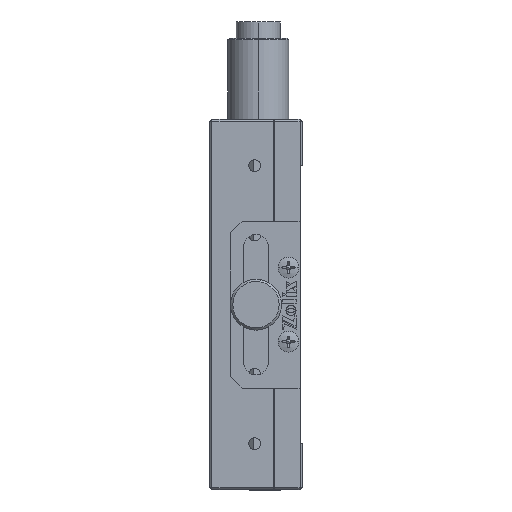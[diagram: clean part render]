
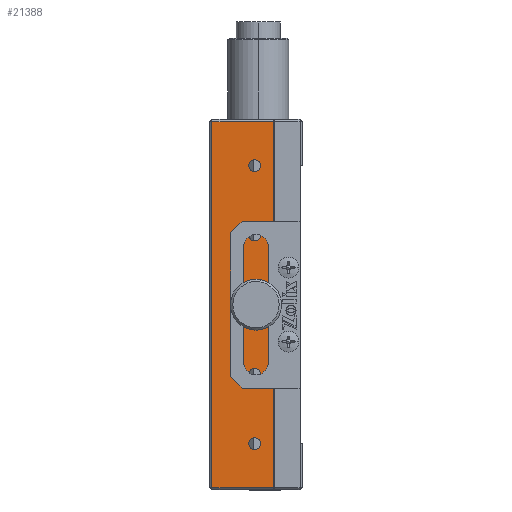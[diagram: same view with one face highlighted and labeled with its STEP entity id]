
A CAD part, left-side view. The second image highlights one B-rep face of the part: STEP entity #21388.
In plain terms, the highlighted planar face has unit normal (-1, 0, 0).
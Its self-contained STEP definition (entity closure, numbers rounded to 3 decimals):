
#180 = AXIS2_PLACEMENT_3D ( 'NONE', #11347, #17938, #22112 ) ;
#286 = VERTEX_POINT ( 'NONE', #22241 ) ;
#294 = DIRECTION ( 'NONE',  ( -1., 0., 0. ) ) ;
#689 = VERTEX_POINT ( 'NONE', #10842 ) ;
#996 = EDGE_LOOP ( 'NONE', ( #18787, #26499 ) ) ;
#1949 = CARTESIAN_POINT ( 'NONE',  ( -39.851, -3.935, 121.25 ) ) ;
#2378 = CARTESIAN_POINT ( 'NONE',  ( -39.851, -3.935, 122.5 ) ) ;
#2574 = ORIENTED_EDGE ( 'NONE', *, *, #9299, .T. ) ;
#2723 = CARTESIAN_POINT ( 'NONE',  ( -39.851, 5.265, 52.5 ) ) ;
#2742 = DIRECTION ( 'NONE',  ( 0., 0., 1. ) ) ;
#2855 = EDGE_CURVE ( 'NONE', #10806, #286, #12658, .T. ) ;
#3459 = CIRCLE ( 'NONE', #23018, 1.25 ) ;
#3609 = CARTESIAN_POINT ( 'NONE',  ( -39.851, -7.935, 53. ) ) ;
#3716 = DIRECTION ( 'NONE',  ( -1., 0., 0. ) ) ;
#3829 = EDGE_CURVE ( 'NONE', #9969, #11088, #6188, .T. ) ;
#4902 = VECTOR ( 'NONE', #8337, 1000. ) ;
#4908 = DIRECTION ( 'NONE',  ( -1., 0., 0. ) ) ;
#4953 = EDGE_LOOP ( 'NONE', ( #22956, #22000 ) ) ;
#4982 = CARTESIAN_POINT ( 'NONE',  ( -39.851, -3.935, 108.75 ) ) ;
#5243 = FACE_BOUND ( 'NONE', #9756, .T. ) ;
#5439 = DIRECTION ( 'NONE',  ( 0., 0., 1. ) ) ;
#5446 = VERTEX_POINT ( 'NONE', #4982 ) ;
#5555 = EDGE_CURVE ( 'NONE', #11088, #9969, #21395, .T. ) ;
#5601 = DIRECTION ( 'NONE',  ( 0., 0., 1. ) ) ;
#5613 = EDGE_CURVE ( 'NONE', #5446, #14327, #9796, .T. ) ;
#6088 = CARTESIAN_POINT ( 'NONE',  ( -39.851, -3.935, 107.5 ) ) ;
#6188 = CIRCLE ( 'NONE', #12682, 1.25 ) ;
#6231 = CARTESIAN_POINT ( 'NONE',  ( -39.851, -7.935, 52.5 ) ) ;
#6522 = CARTESIAN_POINT ( 'NONE',  ( -39.851, -3.935, 106.25 ) ) ;
#6885 = DIRECTION ( 'NONE',  ( 0., 0., 1. ) ) ;
#6928 = LINE ( 'NONE', #22964, #4902 ) ;
#6947 = FACE_BOUND ( 'NONE', #16524, .T. ) ;
#6986 = EDGE_CURVE ( 'NONE', #18811, #689, #26339, .T. ) ;
#7272 = DIRECTION ( 'NONE',  ( 0., 0., 1. ) ) ;
#8141 = CARTESIAN_POINT ( 'NONE',  ( -39.851, -3.935, 62.5 ) ) ;
#8337 = DIRECTION ( 'NONE',  ( 0., 1., 0. ) ) ;
#8649 = VERTEX_POINT ( 'NONE', #16107 ) ;
#9299 = EDGE_CURVE ( 'NONE', #689, #20435, #11940, .T. ) ;
#9756 = EDGE_LOOP ( 'NONE', ( #17631, #27761 ) ) ;
#9796 = CIRCLE ( 'NONE', #27837, 1.25 ) ;
#9904 = EDGE_CURVE ( 'NONE', #16665, #21081, #3459, .T. ) ;
#9969 = VERTEX_POINT ( 'NONE', #23897 ) ;
#10379 = AXIS2_PLACEMENT_3D ( 'NONE', #15744, #20154, #11446 ) ;
#10417 = CIRCLE ( 'NONE', #19095, 1.25 ) ;
#10791 = VECTOR ( 'NONE', #25431, 1000. ) ;
#10806 = VERTEX_POINT ( 'NONE', #17129 ) ;
#10842 = CARTESIAN_POINT ( 'NONE',  ( -39.851, 5.265, 53. ) ) ;
#10982 = EDGE_LOOP ( 'NONE', ( #25814, #27524 ) ) ;
#11088 = VERTEX_POINT ( 'NONE', #14862 ) ;
#11347 = CARTESIAN_POINT ( 'NONE',  ( -39.851, -4.235, 92.5 ) ) ;
#11446 = DIRECTION ( 'NONE',  ( 0., 0., 1. ) ) ;
#11467 = LINE ( 'NONE', #6231, #10791 ) ;
#11940 = LINE ( 'NONE', #21869, #20484 ) ;
#12325 = EDGE_CURVE ( 'NONE', #286, #10806, #10417, .T. ) ;
#12658 = CIRCLE ( 'NONE', #24513, 1.25 ) ;
#12682 = AXIS2_PLACEMENT_3D ( 'NONE', #24510, #24892, #18181 ) ;
#12726 = AXIS2_PLACEMENT_3D ( 'NONE', #18380, #27088, #5439 ) ;
#13655 = CARTESIAN_POINT ( 'NONE',  ( -39.851, -3.935, 123.75 ) ) ;
#13715 = CIRCLE ( 'NONE', #180, 2.1 ) ;
#14293 = ORIENTED_EDGE ( 'NONE', *, *, #25785, .F. ) ;
#14327 = VERTEX_POINT ( 'NONE', #6522 ) ;
#14432 = CARTESIAN_POINT ( 'NONE',  ( -39.851, 5.265, 132. ) ) ;
#14552 = CIRCLE ( 'NONE', #10379, 2.1 ) ;
#14862 = CARTESIAN_POINT ( 'NONE',  ( -39.851, -3.935, 76.25 ) ) ;
#15039 = ORIENTED_EDGE ( 'NONE', *, *, #20053, .T. ) ;
#15744 = CARTESIAN_POINT ( 'NONE',  ( -39.851, -4.235, 92.5 ) ) ;
#15843 = VECTOR ( 'NONE', #22363, 1000. ) ;
#16107 = CARTESIAN_POINT ( 'NONE',  ( -39.851, -4.235, 94.6 ) ) ;
#16415 = AXIS2_PLACEMENT_3D ( 'NONE', #17731, #294, #2742 ) ;
#16524 = EDGE_LOOP ( 'NONE', ( #17917, #14293 ) ) ;
#16665 = VERTEX_POINT ( 'NONE', #13655 ) ;
#17129 = CARTESIAN_POINT ( 'NONE',  ( -39.851, -3.935, 61.25 ) ) ;
#17460 = EDGE_CURVE ( 'NONE', #8649, #25309, #14552, .T. ) ;
#17631 = ORIENTED_EDGE ( 'NONE', *, *, #5613, .F. ) ;
#17731 = CARTESIAN_POINT ( 'NONE',  ( -39.851, -3.935, 122.5 ) ) ;
#17826 = CARTESIAN_POINT ( 'NONE',  ( -39.851, -3.935, 107.5 ) ) ;
#17917 = ORIENTED_EDGE ( 'NONE', *, *, #9904, .F. ) ;
#17938 = DIRECTION ( 'NONE',  ( -1., 0., 0. ) ) ;
#18181 = DIRECTION ( 'NONE',  ( 0., 0., 1. ) ) ;
#18380 = CARTESIAN_POINT ( 'NONE',  ( -39.851, -3.935, 77.5 ) ) ;
#18787 = ORIENTED_EDGE ( 'NONE', *, *, #12325, .F. ) ;
#18811 = VERTEX_POINT ( 'NONE', #14432 ) ;
#19095 = AXIS2_PLACEMENT_3D ( 'NONE', #8141, #3716, #21004 ) ;
#19605 = DIRECTION ( 'NONE',  ( 0., -1., 0. ) ) ;
#19723 = CARTESIAN_POINT ( 'NONE',  ( -39.851, -4.235, 90.4 ) ) ;
#20053 = EDGE_CURVE ( 'NONE', #20435, #26305, #11467, .T. ) ;
#20154 = DIRECTION ( 'NONE',  ( -1., 0., 0. ) ) ;
#20435 = VERTEX_POINT ( 'NONE', #3609 ) ;
#20484 = VECTOR ( 'NONE', #19605, 1000. ) ;
#20567 = CIRCLE ( 'NONE', #26789, 1.25 ) ;
#20656 = PLANE ( 'NONE',  #22673 ) ;
#20727 = CARTESIAN_POINT ( 'NONE',  ( -39.851, -3.935, 62.5 ) ) ;
#20931 = DIRECTION ( 'NONE',  ( -1., 0., 0. ) ) ;
#21004 = DIRECTION ( 'NONE',  ( 0., 0., 1. ) ) ;
#21081 = VERTEX_POINT ( 'NONE', #1949 ) ;
#21264 = FACE_OUTER_BOUND ( 'NONE', #26280, .T. ) ;
#21327 = CIRCLE ( 'NONE', #16415, 1.25 ) ;
#21388 = ADVANCED_FACE ( 'NONE', ( #26319, #27673, #6947, #5243, #25966, #21264 ), #20656, .T. ) ;
#21395 = CIRCLE ( 'NONE', #12726, 1.25 ) ;
#21869 = CARTESIAN_POINT ( 'NONE',  ( -39.851, -7.935, 53. ) ) ;
#22000 = ORIENTED_EDGE ( 'NONE', *, *, #5555, .F. ) ;
#22011 = DIRECTION ( 'NONE',  ( -1., 0., 0. ) ) ;
#22112 = DIRECTION ( 'NONE',  ( 0., 0., 1. ) ) ;
#22241 = CARTESIAN_POINT ( 'NONE',  ( -39.851, -3.935, 63.75 ) ) ;
#22363 = DIRECTION ( 'NONE',  ( 0., 0., -1. ) ) ;
#22404 = EDGE_CURVE ( 'NONE', #26305, #18811, #6928, .T. ) ;
#22639 = EDGE_CURVE ( 'NONE', #25309, #8649, #13715, .T. ) ;
#22673 = AXIS2_PLACEMENT_3D ( 'NONE', #24977, #20931, #5601 ) ;
#22956 = ORIENTED_EDGE ( 'NONE', *, *, #3829, .F. ) ;
#22964 = CARTESIAN_POINT ( 'NONE',  ( -39.851, -7.935, 132. ) ) ;
#23018 = AXIS2_PLACEMENT_3D ( 'NONE', #2378, #22011, #6885 ) ;
#23052 = ORIENTED_EDGE ( 'NONE', *, *, #22404, .T. ) ;
#23148 = DIRECTION ( 'NONE',  ( -1., 0., 0. ) ) ;
#23295 = DIRECTION ( 'NONE',  ( -1., 0., 0. ) ) ;
#23897 = CARTESIAN_POINT ( 'NONE',  ( -39.851, -3.935, 78.75 ) ) ;
#24041 = CARTESIAN_POINT ( 'NONE',  ( -39.851, -7.935, 132. ) ) ;
#24510 = CARTESIAN_POINT ( 'NONE',  ( -39.851, -3.935, 77.5 ) ) ;
#24513 = AXIS2_PLACEMENT_3D ( 'NONE', #20727, #23148, #24956 ) ;
#24892 = DIRECTION ( 'NONE',  ( -1., 0., 0. ) ) ;
#24956 = DIRECTION ( 'NONE',  ( 0., 0., 1. ) ) ;
#24977 = CARTESIAN_POINT ( 'NONE',  ( -39.851, -7.935, 52.5 ) ) ;
#25309 = VERTEX_POINT ( 'NONE', #19723 ) ;
#25431 = DIRECTION ( 'NONE',  ( 0., 0., 1. ) ) ;
#25685 = ORIENTED_EDGE ( 'NONE', *, *, #6986, .T. ) ;
#25785 = EDGE_CURVE ( 'NONE', #21081, #16665, #21327, .T. ) ;
#25814 = ORIENTED_EDGE ( 'NONE', *, *, #17460, .F. ) ;
#25966 = FACE_BOUND ( 'NONE', #10982, .T. ) ;
#26280 = EDGE_LOOP ( 'NONE', ( #25685, #2574, #15039, #23052 ) ) ;
#26305 = VERTEX_POINT ( 'NONE', #24041 ) ;
#26319 = FACE_BOUND ( 'NONE', #4953, .T. ) ;
#26339 = LINE ( 'NONE', #2723, #15843 ) ;
#26499 = ORIENTED_EDGE ( 'NONE', *, *, #2855, .F. ) ;
#26789 = AXIS2_PLACEMENT_3D ( 'NONE', #17826, #4908, #7272 ) ;
#27088 = DIRECTION ( 'NONE',  ( -1., 0., 0. ) ) ;
#27491 = EDGE_CURVE ( 'NONE', #14327, #5446, #20567, .T. ) ;
#27524 = ORIENTED_EDGE ( 'NONE', *, *, #22639, .F. ) ;
#27673 = FACE_BOUND ( 'NONE', #996, .T. ) ;
#27745 = DIRECTION ( 'NONE',  ( 0., 0., 1. ) ) ;
#27761 = ORIENTED_EDGE ( 'NONE', *, *, #27491, .F. ) ;
#27837 = AXIS2_PLACEMENT_3D ( 'NONE', #6088, #23295, #27745 ) ;
